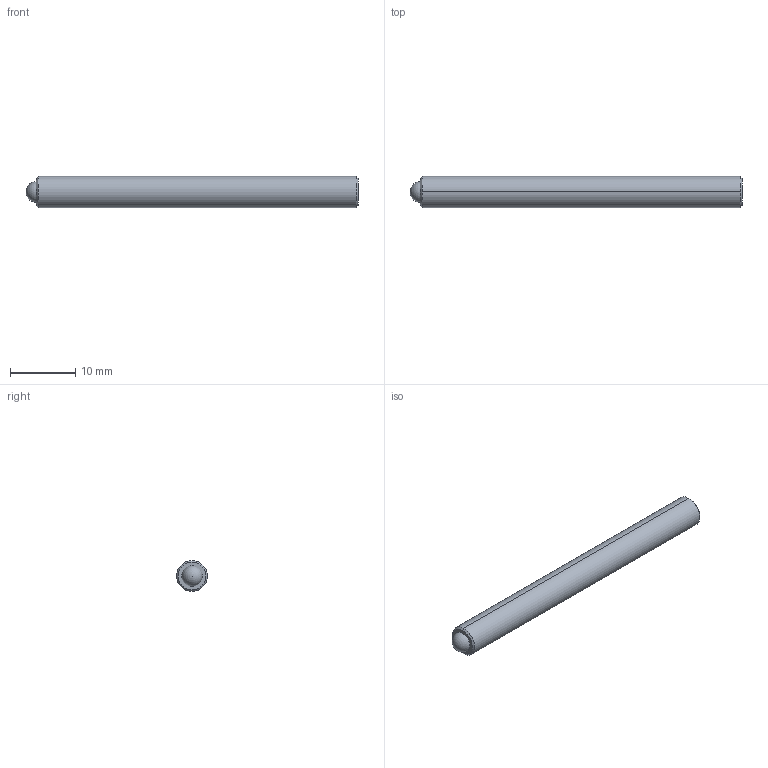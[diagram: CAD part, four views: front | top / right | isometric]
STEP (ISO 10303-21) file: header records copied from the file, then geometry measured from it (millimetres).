
FILE_DESCRIPTION (( 'STEP AP214' ), '1' );
FILE_NAME ('TS187-100-2000.STEP', '2013-02-11T16:04:02', ( 'workpc' ), ( 'Microsoft' ), 'SwSTEP 2.0', 'SolidWorks 2013', '' );
FILE_SCHEMA (( 'AUTOMOTIVE_DESIGN' ));
Length unit declared in the file: inch
Products named in the file (1): TS187-100-2000
Bounding box: 50.8 x 4.75 x 4.75 mm (x, y, z)
Volume: 867.5 mm3; surface area: 828.4 mm2
Topology: 2 solids, 2 shells, 20 faces, 45 edges, 29 vertices
Faces by surface type: plane 10, cylinder 4, cone 4, sphere 2
Entity records: 599 total; most frequent: DIRECTION 96, CARTESIAN_POINT 87, ORIENTED_EDGE 80, EDGE_CURVE 40, AXIS2_PLACEMENT_3D 35, LINE 26, VECTOR 26, VERTEX_POINT 26
